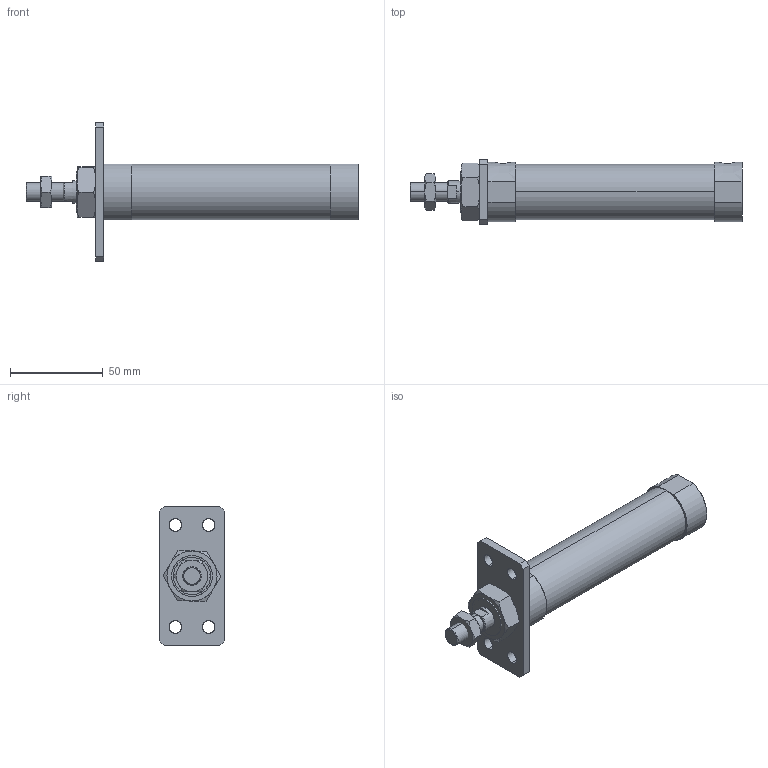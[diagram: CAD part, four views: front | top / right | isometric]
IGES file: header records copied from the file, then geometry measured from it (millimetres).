
Start section: SolidWorks IGES file using analytic representation for surfaces
Global section: file name: C:\Users\Toshiba\Desktop\JGND2-25-75-A.IGS; native system: SolidWorks 2014; preprocessor: SolidWorks 2014; author: Toshiba; date: 160804.103741; units: millimetre
Bounding box: 179 x 35 x 75 mm (x, y, z)
Surface area: 26766.9 mm2 (no closed solid volume)
Topology: 0 solids, 0 shells, 109 faces, 2000 edges, 1996 vertices
Faces by surface type: bspline 69, revolution 40
